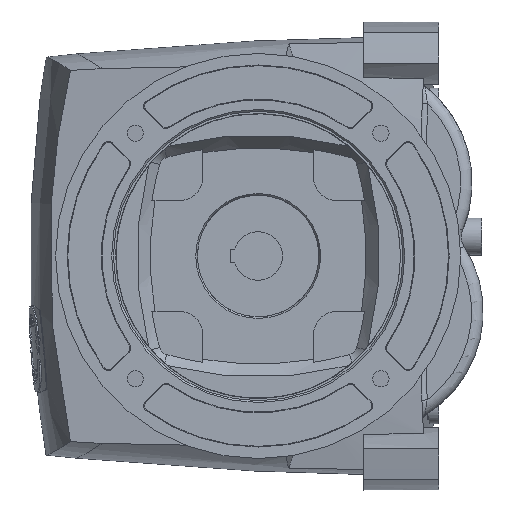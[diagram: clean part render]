
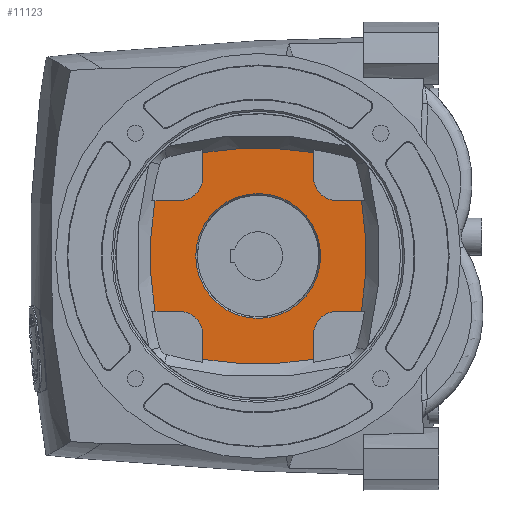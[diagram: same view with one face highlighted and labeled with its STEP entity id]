
A CAD part, left-side view. The second image highlights one B-rep face of the part: STEP entity #11123.
In plain terms, the highlighted planar face has unit normal (-1, 0, 0).
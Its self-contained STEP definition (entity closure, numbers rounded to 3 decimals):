
#1057=CARTESIAN_POINT('',(-428.096,119.817,97.075));
#1069=CARTESIAN_POINT('',(-428.1,24.051,97.072));
#1129=CARTESIAN_POINT('',(-428.1,4.034,118.464));
#1130=DIRECTION('',(1.,0.,0.));
#1131=DIRECTION('',(0.,1.,0.001));
#1132=AXIS2_PLACEMENT_3D('',#1129,#1130,#1131);
#1134=DIRECTION('',(0.,0.,1.));
#1135=VECTOR('',#1134,21.41);
#1136=CARTESIAN_POINT('',(-428.1,24.051,97.072));
#1137=LINE('',#1136,#1135);
#1138=CARTESIAN_POINT('',(-428.04,71.934,392.761));
#1139=DIRECTION('',(-1.,0.,0.));
#1140=DIRECTION('',(0.,0.16,-0.987));
#1141=AXIS2_PLACEMENT_3D('',#1138,#1139,#1140);
#1143=CARTESIAN_POINT('',(-428.1,139.834,118.464));
#1144=DIRECTION('',(1.,0.,0.));
#1145=DIRECTION('',(0.,-0.001,1.));
#1146=AXIS2_PLACEMENT_3D('',#1143,#1144,#1145);
#1148=DIRECTION('',(0.,-1.,0.));
#1149=VECTOR('',#1148,21.411);
#1150=CARTESIAN_POINT('',(-428.1,161.227,138.481));
#1151=LINE('',#1150,#1149);
#1152=CARTESIAN_POINT('',(-428.031,-134.463,
186.364));
#1153=DIRECTION('',(-1.,0.,0.));
#1154=DIRECTION('',(0.,0.987,0.16));
#1155=AXIS2_PLACEMENT_3D('',#1152,#1153,#1154);
#1157=CARTESIAN_POINT('',(-428.1,139.834,254.264));
#1158=DIRECTION('',(1.,0.,0.));
#1159=DIRECTION('',(0.,-1.,-0.001));
#1160=AXIS2_PLACEMENT_3D('',#1157,#1158,#1159);
#1162=DIRECTION('',(0.,0.,-1.));
#1163=VECTOR('',#1162,21.411);
#1164=CARTESIAN_POINT('',(-428.1,119.817,275.657));
#1165=LINE('',#1164,#1163);
#1166=CARTESIAN_POINT('',(-428.031,71.934,
-20.033));
#1167=DIRECTION('',(-1.,0.,0.));
#1168=DIRECTION('',(0.,-0.16,0.987));
#1169=AXIS2_PLACEMENT_3D('',#1166,#1167,#1168);
#1171=CARTESIAN_POINT('',(-428.1,4.034,254.264));
#1172=DIRECTION('',(1.,0.,0.));
#1173=DIRECTION('',(0.,0.,-1.));
#1174=AXIS2_PLACEMENT_3D('',#1171,#1172,#1173);
#1176=DIRECTION('',(0.,1.,0.));
#1177=VECTOR('',#1176,21.406);
#1178=CARTESIAN_POINT('',(-428.1,-17.358,
234.247));
#1179=LINE('',#1178,#1177);
#1180=CARTESIAN_POINT('',(-428.031,278.331,186.364));
#1181=DIRECTION('',(-1.,0.,0.));
#1182=DIRECTION('',(0.,-0.987,-0.16));
#1183=AXIS2_PLACEMENT_3D('',#1180,#1181,#1182);
#1185=CARTESIAN_POINT('',(-428.1,71.934,186.364));
#1186=DIRECTION('',(1.,0.,0.));
#1187=DIRECTION('',(0.,1.,0.));
#1188=AXIS2_PLACEMENT_3D('',#1185,#1186,#1187);
#1190=CARTESIAN_POINT('',(-428.1,71.934,186.364));
#1191=DIRECTION('',(1.,0.,0.));
#1192=DIRECTION('',(0.,0.,-1.));
#1193=AXIS2_PLACEMENT_3D('',#1190,#1191,#1192);
#1195=CARTESIAN_POINT('',(-428.1,71.934,186.364));
#1196=DIRECTION('',(1.,0.,0.));
#1197=DIRECTION('',(0.,-1.,0.));
#1198=AXIS2_PLACEMENT_3D('',#1195,#1196,#1197);
#1208=DIRECTION('',(0.,1.,0.));
#1209=VECTOR('',#1208,21.409);
#1210=CARTESIAN_POINT('',(-428.096,-17.356,
138.482));
#1211=LINE('',#1210,#1209);
#1246=DIRECTION('',(0.,0.,1.));
#1247=VECTOR('',#1246,21.408);
#1248=CARTESIAN_POINT('',(-428.096,119.817,97.075));
#1249=LINE('',#1248,#1247);
#1258=DIRECTION('',(0.,-1.,0.));
#1259=VECTOR('',#1258,21.409);
#1260=CARTESIAN_POINT('',(-428.096,161.224,234.247));
#1261=LINE('',#1260,#1259);
#1304=DIRECTION('',(0.,0.,-1.));
#1305=VECTOR('',#1304,21.404);
#1306=CARTESIAN_POINT('',(-428.096,24.051,275.654));
#1307=LINE('',#1306,#1305);
#9168=CARTESIAN_POINT('',(-428.101,-17.361,
138.481));
#9169=CARTESIAN_POINT('',(-428.101,-17.361,
234.248));
#9170=VERTEX_POINT('',#9168);
#9171=VERTEX_POINT('',#9169);
#9172=CARTESIAN_POINT('',(-428.101,24.051,275.659));
#9173=CARTESIAN_POINT('',(-428.101,119.818,275.659));
#9174=VERTEX_POINT('',#9172);
#9175=VERTEX_POINT('',#9173);
#9199=CARTESIAN_POINT('',(-428.1,125.868,186.364));
#9200=CARTESIAN_POINT('',(-428.1,18.,186.364));
#9201=VERTEX_POINT('',#9199);
#9202=VERTEX_POINT('',#9200);
#9205=CARTESIAN_POINT('',(-428.1,4.04,234.246));
#9206=CARTESIAN_POINT('',(-428.1,24.053,254.255));
#9207=VERTEX_POINT('',#9205);
#9208=VERTEX_POINT('',#9206);
#9217=CARTESIAN_POINT('',(-428.1,24.053,118.483));
#9218=CARTESIAN_POINT('',(-428.1,4.056,138.483));
#9219=VERTEX_POINT('',#9217);
#9220=VERTEX_POINT('',#9218);
#9335=CARTESIAN_POINT('',(-428.1,119.816,254.246));
#9336=CARTESIAN_POINT('',(-428.1,139.813,234.246));
#9337=VERTEX_POINT('',#9335);
#9338=VERTEX_POINT('',#9336);
#9339=CARTESIAN_POINT('',(-428.1,71.934,132.43));
#9340=VERTEX_POINT('',#9339);
#9348=VERTEX_POINT('',#1069);
#9350=CARTESIAN_POINT('',(-428.1,119.816,118.483));
#9352=VERTEX_POINT('',#9350);
#9353=VERTEX_POINT('',#1057);
#9359=CARTESIAN_POINT('',(-428.1,139.816,138.482));
#9360=VERTEX_POINT('',#9359);
#9361=CARTESIAN_POINT('',(-428.096,161.224,234.247));
#9362=VERTEX_POINT('',#9361);
#9363=CARTESIAN_POINT('',(-428.101,161.229,138.481));
#9364=VERTEX_POINT('',#9363);
#11081=CARTESIAN_POINT('',(-428.1,71.934,
186.364));
#11082=DIRECTION('',(-1.,0.,0.));
#11083=DIRECTION('',(0.,0.,1.));
#11084=AXIS2_PLACEMENT_3D('',#11081,#11082,#11083);
#11085=PLANE('',#11084);
#11087=ORIENTED_EDGE('',*,*,#11086,.F.);
#11089=ORIENTED_EDGE('',*,*,#11088,.F.);
#11090=ORIENTED_EDGE('',*,*,#10976,.F.);
#11092=ORIENTED_EDGE('',*,*,#11091,.T.);
#11094=ORIENTED_EDGE('',*,*,#11093,.F.);
#11095=ORIENTED_EDGE('',*,*,#11072,.F.);
#11096=ORIENTED_EDGE('',*,*,#10672,.F.);
#11098=ORIENTED_EDGE('',*,*,#11097,.T.);
#11100=ORIENTED_EDGE('',*,*,#11099,.F.);
#11102=ORIENTED_EDGE('',*,*,#11101,.F.);
#11103=ORIENTED_EDGE('',*,*,#10774,.F.);
#11105=ORIENTED_EDGE('',*,*,#11104,.T.);
#11107=ORIENTED_EDGE('',*,*,#11106,.F.);
#11109=ORIENTED_EDGE('',*,*,#11108,.F.);
#11110=ORIENTED_EDGE('',*,*,#10875,.F.);
#11112=ORIENTED_EDGE('',*,*,#11111,.T.);
#11113=EDGE_LOOP('',(#11087,#11089,#11090,#11092,#11094,#11095,#11096,#11098,
#11100,#11102,#11103,#11105,#11107,#11109,#11110,#11112));
#11114=FACE_OUTER_BOUND('',#11113,.F.);
#11116=ORIENTED_EDGE('',*,*,#11115,.F.);
#11118=ORIENTED_EDGE('',*,*,#11117,.F.);
#11120=ORIENTED_EDGE('',*,*,#11119,.F.);
#11121=EDGE_LOOP('',(#11116,#11118,#11120));
#11122=FACE_BOUND('',#11121,.F.);
#11123=ADVANCED_FACE('',(#11114,#11122),#11085,.T.);
#1133=CIRCLE('',#1132,20.019);
#1142=CIRCLE('',#1141,299.544);
#1147=CIRCLE('',#1146,20.019);
#1156=CIRCLE('',#1155,299.544);
#1161=CIRCLE('',#1160,20.019);
#1170=CIRCLE('',#1169,299.544);
#1175=CIRCLE('',#1174,20.019);
#1184=CIRCLE('',#1183,299.544);
#1189=CIRCLE('',#1188,53.934);
#1194=CIRCLE('',#1193,53.934);
#1199=CIRCLE('',#1198,53.934);
#10672=EDGE_CURVE('',#9362,#9364,#1156,.T.);
#10774=EDGE_CURVE('',#9174,#9175,#1170,.T.);
#10875=EDGE_CURVE('',#9170,#9171,#1184,.T.);
#10976=EDGE_CURVE('',#9353,#9348,#1142,.T.);
#11072=EDGE_CURVE('',#9364,#9360,#1151,.T.);
#11086=EDGE_CURVE('',#9219,#9220,#1133,.T.);
#11088=EDGE_CURVE('',#9348,#9219,#1137,.T.);
#11091=EDGE_CURVE('',#9353,#9352,#1249,.T.);
#11093=EDGE_CURVE('',#9360,#9352,#1147,.T.);
#11097=EDGE_CURVE('',#9362,#9338,#1261,.T.);
#11099=EDGE_CURVE('',#9337,#9338,#1161,.T.);
#11101=EDGE_CURVE('',#9175,#9337,#1165,.T.);
#11104=EDGE_CURVE('',#9174,#9208,#1307,.T.);
#11106=EDGE_CURVE('',#9207,#9208,#1175,.T.);
#11108=EDGE_CURVE('',#9171,#9207,#1179,.T.);
#11111=EDGE_CURVE('',#9170,#9220,#1211,.T.);
#11115=EDGE_CURVE('',#9201,#9202,#1189,.T.);
#11117=EDGE_CURVE('',#9340,#9201,#1194,.T.);
#11119=EDGE_CURVE('',#9202,#9340,#1199,.T.);
